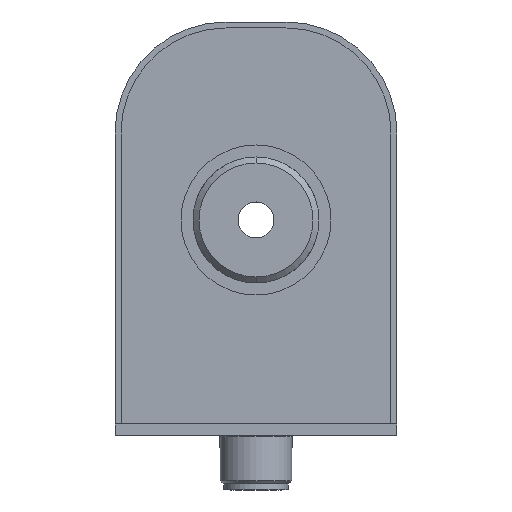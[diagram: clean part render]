
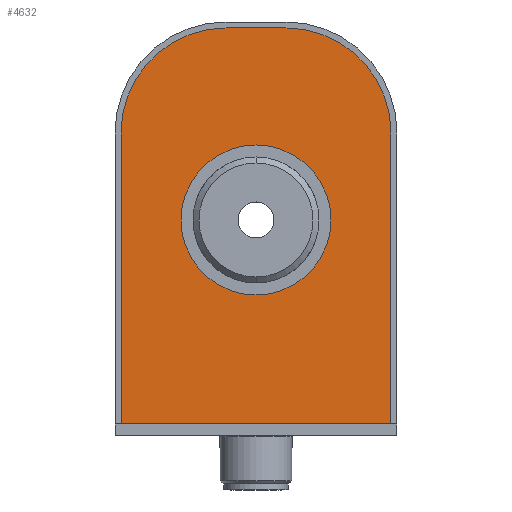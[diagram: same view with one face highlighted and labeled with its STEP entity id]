
A CAD part, left-side view. The second image highlights one B-rep face of the part: STEP entity #4632.
In plain terms, the highlighted planar face has unit normal (-1, 0, 0) as drawn and (0, 0, -1) by its records, which use the part's own axes.
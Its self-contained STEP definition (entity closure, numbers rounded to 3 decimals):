
#39 = ORIENTED_EDGE ( 'NONE', *, *, #7919, .T. ) ;
#352 = AXIS2_PLACEMENT_3D ( 'NONE', #10707, #3602, #11884 ) ;
#378 = CARTESIAN_POINT ( 'NONE',  ( -17.5, 66., 0. ) ) ;
#396 = EDGE_LOOP ( 'NONE', ( #12836, #39 ) ) ;
#735 = CARTESIAN_POINT ( 'NONE',  ( 27.5, 66., 0. ) ) ;
#851 = VERTEX_POINT ( 'NONE', #12072 ) ;
#1484 = EDGE_CURVE ( 'NONE', #7476, #9221, #12647, .T. ) ;
#1719 = FACE_BOUND ( 'NONE', #396, .T. ) ;
#2355 = LINE ( 'NONE', #735, #11413 ) ;
#2707 = CARTESIAN_POINT ( 'NONE',  ( 0., 0., 0. ) ) ;
#2750 = DIRECTION ( 'NONE',  ( 0., 0., 1. ) ) ;
#3041 = DIRECTION ( 'NONE',  ( -1., 0., 0. ) ) ;
#3205 = CIRCLE ( 'NONE', #9237, 11.85 ) ;
#3460 = CARTESIAN_POINT ( 'NONE',  ( 27.5, 17.5, 0. ) ) ;
#3588 = ORIENTED_EDGE ( 'NONE', *, *, #10899, .F. ) ;
#3602 = DIRECTION ( 'NONE',  ( 0., 0., 1. ) ) ;
#3657 = CARTESIAN_POINT ( 'NONE',  ( 10., 17.5, 0. ) ) ;
#3685 = ORIENTED_EDGE ( 'NONE', *, *, #7221, .F. ) ;
#3813 = EDGE_CURVE ( 'NONE', #6168, #8779, #12304, .T. ) ;
#3833 = EDGE_CURVE ( 'NONE', #851, #12452, #3205, .T. ) ;
#4127 = VERTEX_POINT ( 'NONE', #5679 ) ;
#4632 = ADVANCED_FACE ( 'NONE', ( #5211, #1719 ), #5684, .F. ) ;
#4837 = DIRECTION ( 'NONE',  ( 1., 0., 0. ) ) ;
#4868 = CARTESIAN_POINT ( 'NONE',  ( 0., 0., 0. ) ) ;
#5072 = CARTESIAN_POINT ( 'NONE',  ( 0., 17.5, 0. ) ) ;
#5197 = CARTESIAN_POINT ( 'NONE',  ( -17.5, 66., 0. ) ) ;
#5203 = ORIENTED_EDGE ( 'NONE', *, *, #3813, .F. ) ;
#5205 = VECTOR ( 'NONE', #9589, 1000. ) ;
#5211 = FACE_OUTER_BOUND ( 'NONE', #7692, .T. ) ;
#5417 = ORIENTED_EDGE ( 'NONE', *, *, #14584, .F. ) ;
#5679 = CARTESIAN_POINT ( 'NONE',  ( 10., 0., 0. ) ) ;
#5684 = PLANE ( 'NONE',  #7286 ) ;
#6168 = VERTEX_POINT ( 'NONE', #11566 ) ;
#6282 = DIRECTION ( 'NONE',  ( 1., 0., 0. ) ) ;
#6669 = ORIENTED_EDGE ( 'NONE', *, *, #13181, .F. ) ;
#6870 = DIRECTION ( 'NONE',  ( 1., 0., 0. ) ) ;
#7221 = EDGE_CURVE ( 'NONE', #12262, #6168, #11436, .T. ) ;
#7286 = AXIS2_PLACEMENT_3D ( 'NONE', #12778, #13997, #6870 ) ;
#7476 = VERTEX_POINT ( 'NONE', #11512 ) ;
#7650 = AXIS2_PLACEMENT_3D ( 'NONE', #5072, #13374, #6282 ) ;
#7692 = EDGE_LOOP ( 'NONE', ( #5203, #3685, #5417, #9246, #3588, #6669 ) ) ;
#7919 = EDGE_CURVE ( 'NONE', #12452, #851, #8663, .T. ) ;
#7927 = CARTESIAN_POINT ( 'NONE',  ( 16.85, 32., 0. ) ) ;
#8261 = AXIS2_PLACEMENT_3D ( 'NONE', #3657, #11943, #4837 ) ;
#8280 = VECTOR ( 'NONE', #12223, 1000. ) ;
#8663 = CIRCLE ( 'NONE', #352, 11.85 ) ;
#8779 = VERTEX_POINT ( 'NONE', #2707 ) ;
#9221 = VERTEX_POINT ( 'NONE', #10876 ) ;
#9237 = AXIS2_PLACEMENT_3D ( 'NONE', #9841, #2750, #11046 ) ;
#9246 = ORIENTED_EDGE ( 'NONE', *, *, #1484, .F. ) ;
#9508 = VECTOR ( 'NONE', #10567, 1000. ) ;
#9589 = DIRECTION ( 'NONE',  ( 1., 0., 0. ) ) ;
#9841 = CARTESIAN_POINT ( 'NONE',  ( 5., 32., 0. ) ) ;
#10567 = DIRECTION ( 'NONE',  ( 0., 1., 0. ) ) ;
#10707 = CARTESIAN_POINT ( 'NONE',  ( 5., 32., 0. ) ) ;
#10876 = CARTESIAN_POINT ( 'NONE',  ( 27.5, 66., 0. ) ) ;
#10899 = EDGE_CURVE ( 'NONE', #4127, #7476, #12303, .T. ) ;
#11046 = DIRECTION ( 'NONE',  ( 1., 0., 0. ) ) ;
#11413 = VECTOR ( 'NONE', #3041, 1000. ) ;
#11436 = LINE ( 'NONE', #378, #8280 ) ;
#11493 = LINE ( 'NONE', #4868, #5205 ) ;
#11512 = CARTESIAN_POINT ( 'NONE',  ( 27.5, 17.5, 0. ) ) ;
#11566 = CARTESIAN_POINT ( 'NONE',  ( -17.5, 17.5, 0. ) ) ;
#11884 = DIRECTION ( 'NONE',  ( 1., 0., 0. ) ) ;
#11943 = DIRECTION ( 'NONE',  ( 0., 0., 1. ) ) ;
#12072 = CARTESIAN_POINT ( 'NONE',  ( -6.85, 32., 0. ) ) ;
#12223 = DIRECTION ( 'NONE',  ( 0., -1., 0. ) ) ;
#12262 = VERTEX_POINT ( 'NONE', #5197 ) ;
#12303 = CIRCLE ( 'NONE', #8261, 17.5 ) ;
#12304 = CIRCLE ( 'NONE', #7650, 17.5 ) ;
#12452 = VERTEX_POINT ( 'NONE', #7927 ) ;
#12647 = LINE ( 'NONE', #3460, #9508 ) ;
#12778 = CARTESIAN_POINT ( 'NONE',  ( 0., 17.5, 0. ) ) ;
#12836 = ORIENTED_EDGE ( 'NONE', *, *, #3833, .T. ) ;
#13181 = EDGE_CURVE ( 'NONE', #8779, #4127, #11493, .T. ) ;
#13374 = DIRECTION ( 'NONE',  ( 0., 0., 1. ) ) ;
#13997 = DIRECTION ( 'NONE',  ( 0., 0., 1. ) ) ;
#14584 = EDGE_CURVE ( 'NONE', #9221, #12262, #2355, .T. ) ;
